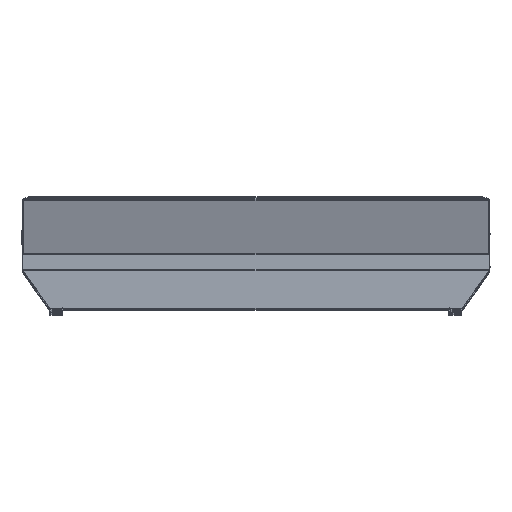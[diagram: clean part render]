
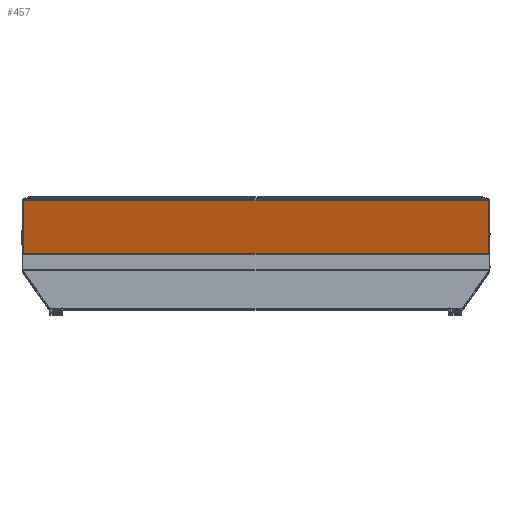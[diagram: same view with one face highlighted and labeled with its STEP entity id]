
A CAD part, top view. The second image highlights one B-rep face of the part: STEP entity #457.
In plain terms, the highlighted planar face has unit normal (0, -0.956, -0.292) by its records, which use the part's own axes.
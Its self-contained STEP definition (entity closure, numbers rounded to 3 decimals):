
#199=(
BOUNDED_CURVE()
B_SPLINE_CURVE(2,(#5665,#5666,#5667),.UNSPECIFIED.,.F.,.F.)
B_SPLINE_CURVE_WITH_KNOTS((3,3),(-1.811,0.),.UNSPECIFIED.)
CURVE()
GEOMETRIC_REPRESENTATION_ITEM()
RATIONAL_B_SPLINE_CURVE((1.,0.944,1.))
REPRESENTATION_ITEM($)
);
#200=(
BOUNDED_CURVE()
B_SPLINE_CURVE(2,(#5668,#5669,#5670),.UNSPECIFIED.,.F.,.F.)
B_SPLINE_CURVE_WITH_KNOTS((3,3),(0.,1.811),.UNSPECIFIED.)
CURVE()
GEOMETRIC_REPRESENTATION_ITEM()
RATIONAL_B_SPLINE_CURVE((1.,0.944,1.))
REPRESENTATION_ITEM($)
);
#457=ADVANCED_FACE($,(#660),#3019,.T.);
#660=FACE_OUTER_BOUND($,#871,.T.);
#871=EDGE_LOOP($,(#1604,#1605,#1606,#1607,#1608,#1609,#1610,#1611));
#1604=ORIENTED_EDGE($,*,*,#2411,.T.);
#1605=ORIENTED_EDGE($,*,*,#2412,.T.);
#1606=ORIENTED_EDGE($,*,*,#2413,.T.);
#1607=ORIENTED_EDGE($,*,*,#2414,.T.);
#1608=ORIENTED_EDGE($,*,*,#2408,.F.);
#1609=ORIENTED_EDGE($,*,*,#2407,.F.);
#1610=ORIENTED_EDGE($,*,*,#2415,.T.);
#1611=ORIENTED_EDGE($,*,*,#2234,.F.);
#2234=EDGE_CURVE($,#2753,#2752,#3221,.T.);
#2407=EDGE_CURVE($,#2872,#2873,#3346,.T.);
#2408=EDGE_CURVE($,#2873,#2874,#3347,.T.);
#2411=EDGE_CURVE($,#2753,#2875,#3350,.T.);
#2412=EDGE_CURVE($,#2875,#2876,#3351,.T.);
#2413=EDGE_CURVE($,#2876,#2877,#3352,.T.);
#2414=EDGE_CURVE($,#2877,#2874,#199,.T.);
#2415=EDGE_CURVE($,#2872,#2752,#200,.T.);
#2752=VERTEX_POINT($,#7157);
#2753=VERTEX_POINT($,#7158);
#2872=VERTEX_POINT($,#7277);
#2873=VERTEX_POINT($,#7278);
#2874=VERTEX_POINT($,#7279);
#2875=VERTEX_POINT($,#7280);
#2876=VERTEX_POINT($,#7281);
#2877=VERTEX_POINT($,#7282);
#3019=PLANE($,#4245);
#3221=B_SPLINE_CURVE_WITH_KNOTS($,1,(#5179,#5180),.UNSPECIFIED.,.F.,.F.,
(2,2),(0.,106.459),.UNSPECIFIED.);
#3346=B_SPLINE_CURVE_WITH_KNOTS($,1,(#5647,#5648),.UNSPECIFIED.,.F.,.F.,
(2,2),(-447.114,0.),.UNSPECIFIED.);
#3347=B_SPLINE_CURVE_WITH_KNOTS($,1,(#5649,#5650),.UNSPECIFIED.,.F.,.F.,
(2,2),(0.,447.114),.UNSPECIFIED.);
#3350=B_SPLINE_CURVE_WITH_KNOTS($,1,(#5659,#5660),.UNSPECIFIED.,.F.,.F.,
(2,2),(-448.,0.),.UNSPECIFIED.);
#3351=B_SPLINE_CURVE_WITH_KNOTS($,1,(#5661,#5662),.UNSPECIFIED.,.F.,.F.,
(2,2),(0.,448.),.UNSPECIFIED.);
#3352=B_SPLINE_CURVE_WITH_KNOTS($,1,(#5663,#5664),.UNSPECIFIED.,.F.,.F.,
(2,2),(0.,106.459),.UNSPECIFIED.);
#4245=AXIS2_PLACEMENT_3D($,#6557,#4406,$);
#4406=DIRECTION($,(0.,-0.956,-0.292));
#5179=CARTESIAN_POINT($,(2.,65.712,-209.803));
#5180=CARTESIAN_POINT($,(2.,34.586,-107.996));
#5647=CARTESIAN_POINT($,(2.886,34.136,-106.522));
#5648=CARTESIAN_POINT($,(450.,34.136,-106.522));
#5649=CARTESIAN_POINT($,(450.,34.136,-106.522));
#5650=CARTESIAN_POINT($,(897.114,34.136,-106.522));
#5659=CARTESIAN_POINT($,(2.,65.712,-209.803));
#5660=CARTESIAN_POINT($,(450.,65.712,-209.803));
#5661=CARTESIAN_POINT($,(450.,65.712,-209.803));
#5662=CARTESIAN_POINT($,(898.,65.712,-209.803));
#5663=CARTESIAN_POINT($,(898.,65.712,-209.803));
#5664=CARTESIAN_POINT($,(898.,34.586,-107.996));
#5665=CARTESIAN_POINT($,(898.,34.586,-107.996));
#5666=CARTESIAN_POINT($,(897.288,34.406,-107.407));
#5667=CARTESIAN_POINT($,(897.114,34.136,-106.522));
#5668=CARTESIAN_POINT($,(2.886,34.136,-106.522));
#5669=CARTESIAN_POINT($,(2.712,34.406,-107.407));
#5670=CARTESIAN_POINT($,(2.,34.586,-107.996));
#6557=CARTESIAN_POINT($,(2.,34.136,-106.522));
#7157=CARTESIAN_POINT($,(2.,34.586,-107.996));
#7158=CARTESIAN_POINT($,(2.,65.712,-209.803));
#7277=CARTESIAN_POINT($,(2.886,34.136,-106.522));
#7278=CARTESIAN_POINT($,(450.,34.136,-106.522));
#7279=CARTESIAN_POINT($,(897.114,34.136,-106.522));
#7280=CARTESIAN_POINT($,(450.,65.712,-209.803));
#7281=CARTESIAN_POINT($,(898.,65.712,-209.803));
#7282=CARTESIAN_POINT($,(898.,34.586,-107.996));
